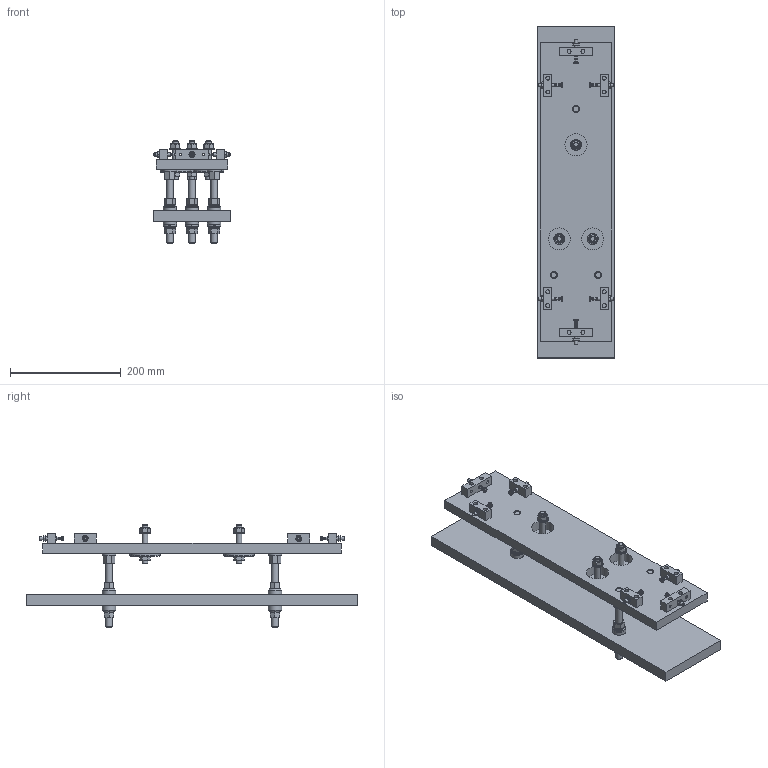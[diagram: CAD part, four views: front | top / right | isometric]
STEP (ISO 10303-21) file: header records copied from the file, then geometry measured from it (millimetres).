
FILE_DESCRIPTION(/* description */ (''),/* implementation_level */ '2;1');
FILE_NAME(/* name */ 'Z:\[CNAO] - Disegno e progettazione\[CNAO] - CNAO - 2016-02-26\03 - Magneti\LEBT-QIA\Supporto allineamento QIA-O3\step\Supporto allineamento QIA-O3.stp',/* time_stamp */ '2020-08-04T16:49:30+02:00',/* author */ ('WIN7'),/* organization */ (''),/* preprocessor_version */ 'ST-DEVELOPER v15.2',/* originating_system */ 'Autodesk Inventor 2014',/* authorisation */ '');
FILE_SCHEMA (('AUTOMOTIVE_DESIGN { 1 0 10303 214 3 1 1 }'));
Length unit declared in the file: millimetre
Products named in the file (18): Piastra Superiore - QIA-O3; Piastra Inferiore - QIA-O3; 1; 2; HALDER DADO M12 230800512; Barra filettata M12; HALDER DADO M12 battuta 230800012; Blocchetto vite di spinta - QIA-O3; Blocchetto vite di spinta lungo - QIA-O3; HALDERN_EH_22600_0006_1; HALDERN_EH_22600_0006_2; HALDERN_EH_22600_0006_3; HALDER M6X44 EH22600_0006; Barra filettata M10; Dado ISO 4032 - M10ISO; Rondella ISO 7089 - 10 - 140 HV(1); Rondellone; LEBT-QIA - O3 VERSION
Bounding box: 140 x 600 x 184.4 mm (x, y, z)
Volume: 3080344 mm3; surface area: 483532.2 mm2
Topology: 59 solids, 59 shells, 909 faces, 2027 edges, 1251 vertices
Faces by surface type: plane 435, cone 296, cylinder 154, sphere 12, torus 12
Full cylindrical faces by diameter (mm): 3.15 x6, 4.25 x6, 4.917 x10, 4.918 x6, 5.667 x6, 6 x6, 7 x24, 8.376 x6, 8.5 x6, 10 x3, 10.106 x3, 10.2 x9, 10.5 x3, 11 x6, 12 x3, 14.2 x6, 15 x3, 17.1 x6, 19.3 x6, 19.4 x6, 20 x3, 21.2 x6, 24 x6, 25 x3, 40 x3, 55 x3
Entity records: 5975 total; most frequent: CARTESIAN_POINT 1067, DIRECTION 1016, ORIENTED_EDGE 736, AXIS2_PLACEMENT_3D 445, EDGE_LOOP 376, EDGE_CURVE 368, VERTEX_POINT 280, ADVANCED_FACE 211
